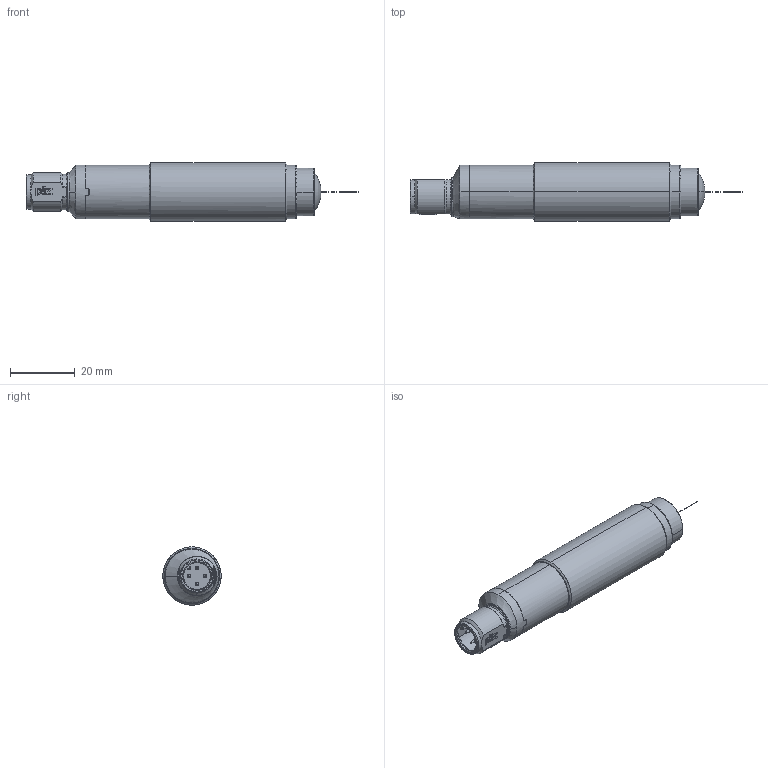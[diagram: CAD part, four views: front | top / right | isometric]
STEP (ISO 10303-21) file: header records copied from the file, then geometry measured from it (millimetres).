
FILE_DESCRIPTION((''),'2;1');
FILE_NAME('2008678','2011-03-28T',('rink'),(''),'PRO/ENGINEER BY PARAMETRIC TECHNOLOGY CORPORATION, 2009380','PRO/ENGINEER BY PARAMETRIC TECHNOLOGY CORPORATION, 2009380','');
FILE_SCHEMA(('AUTOMOTIVE_DESIGN_CC2 { 1 2 10303 214 -1 1 5 2 }'));
Length unit declared in the file: millimetre
Products named in the file (1): 2008678
Bounding box: 102.4 x 18 x 18 mm (x, y, z)
Surface area: 5116.3 mm2
Topology: 5 solids, 35 shells, 162 faces, 464 edges, 323 vertices
Faces by surface type: plane 64, cylinder 52, cone 20, torus 12, bspline 10, sphere 4
Entity records: 7618 total; most frequent: CARTESIAN_POINT 1798, DIRECTION 863, ORIENTED_EDGE 749, PRESENTATION_STYLE_ASSIGNMENT 499, STYLED_ITEM 494, CURVE_STYLE 459, EDGE_CURVE 454, AXIS2_PLACEMENT_3D 340
